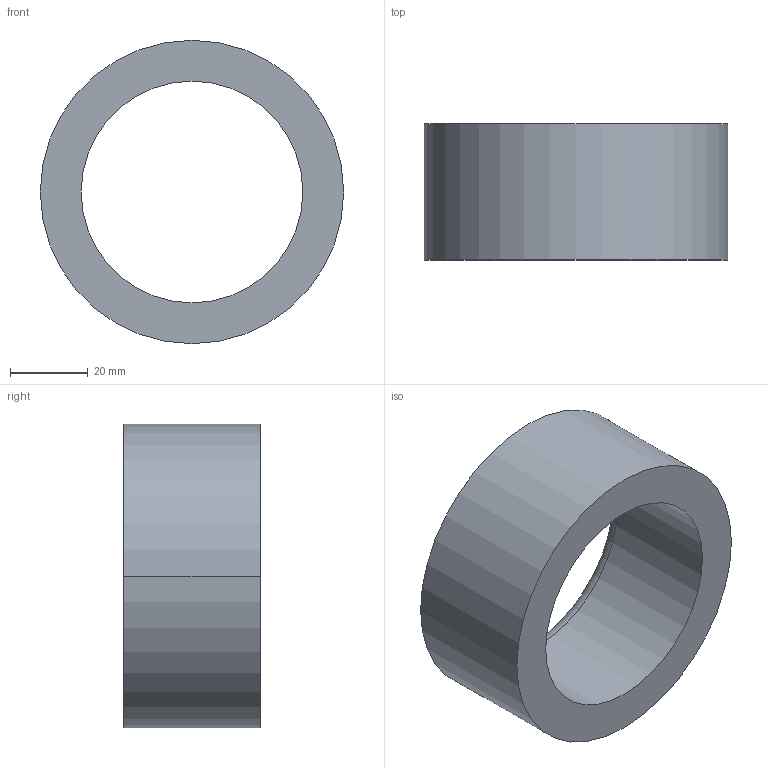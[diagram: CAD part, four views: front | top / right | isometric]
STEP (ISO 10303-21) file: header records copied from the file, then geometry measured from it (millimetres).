
FILE_DESCRIPTION (( 'STEP AP203' ), '1' );
FILE_NAME ('30800.WPP78M57.0.step', '2019-01-23T23:02:31', ( '' ), ( '' ), 'SwSTEP 2.0', 'SolidWorks 2017', '' );
FILE_SCHEMA (( 'CONFIG_CONTROL_DESIGN' ));
Length unit declared in the file: millimetre
Products named in the file (1): 30800.WPP78M57.0
Bounding box: 78 x 35 x 78 mm (x, y, z)
Volume: 77297 mm3; surface area: 18996.9 mm2
Topology: 1 solids, 1 shells, 8 faces, 16 edges, 10 vertices
Faces by surface type: cylinder 4, torus 2, plane 2
Entity records: 297 total; most frequent: DIRECTION 46, CARTESIAN_POINT 35, ORIENTED_EDGE 32, AXIS2_PLACEMENT_3D 21, EDGE_CURVE 16, CIRCLE 12, VERTEX_POINT 10, EDGE_LOOP 10
